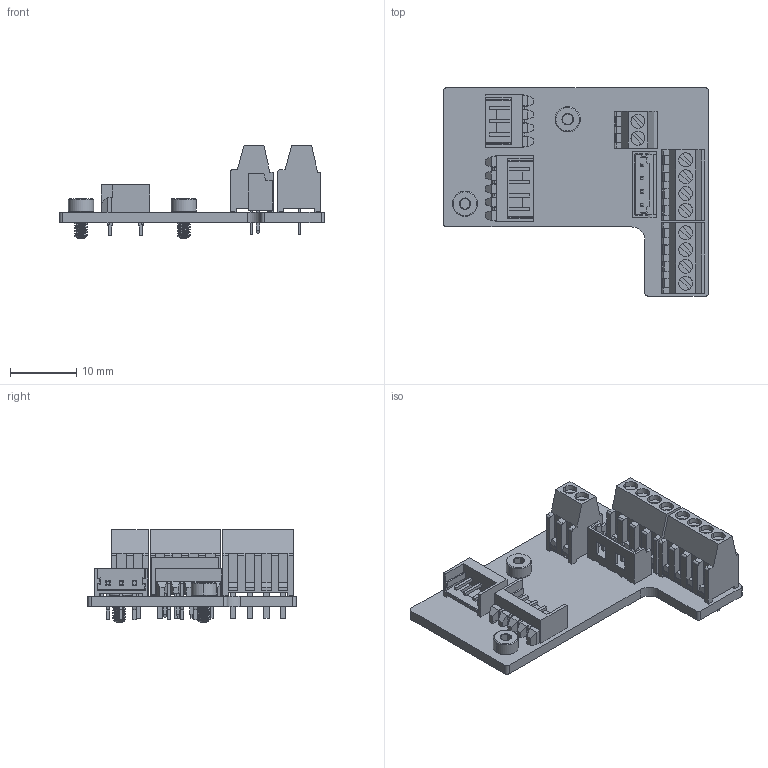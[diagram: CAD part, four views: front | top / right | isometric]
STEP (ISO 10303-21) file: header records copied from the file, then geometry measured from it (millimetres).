
FILE_DESCRIPTION(('KiCad electronic assembly'),'2;1');
FILE_NAME('voronBreakoutBoard.step','2021-01-16T15:33:43',('An Author'), ('A Company'),'Open CASCADE STEP processor 6.9', 'KiCad to STEP converter','Unknown');
FILE_SCHEMA(('AUTOMOTIVE_DESIGN { 1 0 10303 214 1 1 1 1 }'));
Length unit declared in the file: millimetre
Products named in the file (14): Open CASCADE STEP translator 6.9 1; 282834-2; SOLID; 532540370; COMPOUND; 532540470; 532530470; 91290A011_BLACK-OXIDE_CLASS_12.9_SOCKET_HEAD_CAP_SCREW; 282834-4
Assembly tree (15 placements, depth 3):
  Open CASCADE STEP translator 6.9 1
    282834-2
      SOLID
    532540370
      COMPOUND
    532540470
      COMPOUND
    532530470
      COMPOUND
    91290A011_BLACK-OXIDE_CLASS_12.9_SOCKET_HEAD_CAP_SCREW  x2
      SOLID
    282834-4  x2
      SOLID
    COMPOUND
Bounding box: 40 x 31.45 x 14 mm (x, y, z)
Volume: 3102.3 mm3; surface area: 4829.2 mm2
Topology: 9 solids, 9 shells, 1010 faces, 2717 edges, 1802 vertices
Faces by surface type: plane 795, cylinder 179, cone 32, bspline 4
Full cylindrical faces by diameter (mm): 0.8 x11, 1.06 x8, 1.1 x2, 2.2 x2
Entity records: 57346 total; most frequent: CARTESIAN_POINT 13247, DIRECTION 8174, LINE 5857, VECTOR 5857, ORIENTED_EDGE 4326, PCURVE 4326, DEFINITIONAL_REPRESENTATION 4326, EDGE_CURVE 2163
